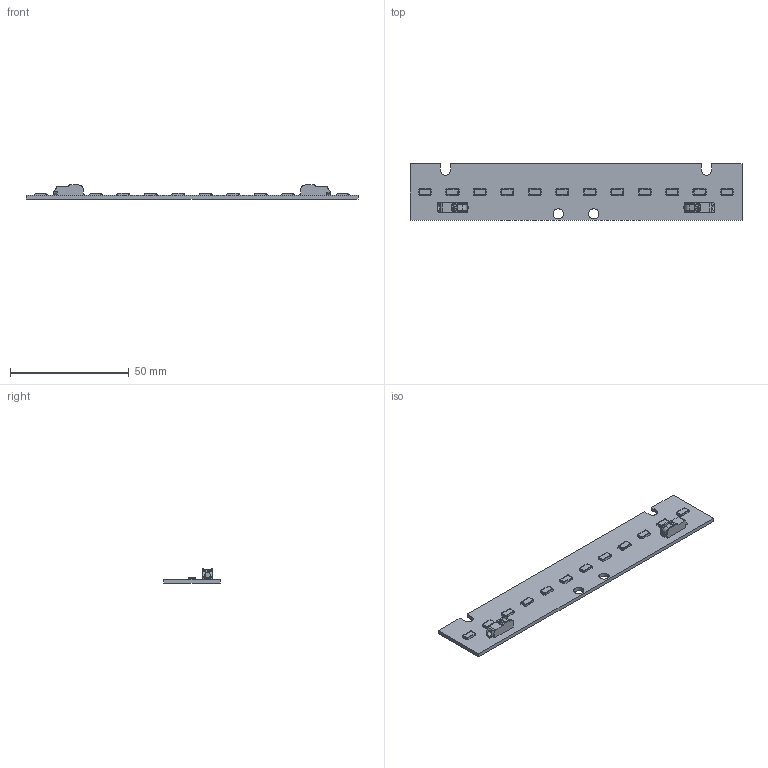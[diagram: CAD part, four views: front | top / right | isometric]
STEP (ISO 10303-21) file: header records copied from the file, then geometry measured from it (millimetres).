
FILE_DESCRIPTION (( 'STEP AP203' ), '1' );
FILE_NAME ('led_module LS142.STEP', '2015-07-07T06:36:54', ( '' ), ( '' ), 'SwSTEP 2.0', 'SolidWorks 2014', '' );
FILE_SCHEMA (( 'CONFIG_CONTROL_DESIGN' ));
Length unit declared in the file: millimetre
Products named in the file (4): led_module LS142; 75748A; 7800175; LM561B
Assembly tree (15 placements, depth 2):
  led_module LS142
    75748A
    7800175  x2
    LM561B  x12
Bounding box: 140 x 24 x 5.95 mm (x, y, z)
Volume: 5775.5 mm3; surface area: 8795.8 mm2
Topology: 87 solids, 87 shells, 912 faces, 2192 edges, 1460 vertices
Faces by surface type: plane 702, cylinder 160, cone 48, bspline 2
Entity records: 6218 total; most frequent: CARTESIAN_POINT 1063, ORIENTED_EDGE 920, DIRECTION 914, EDGE_CURVE 460, LINE 352, VECTOR 352, VERTEX_POINT 306, AXIS2_PLACEMENT_3D 281
